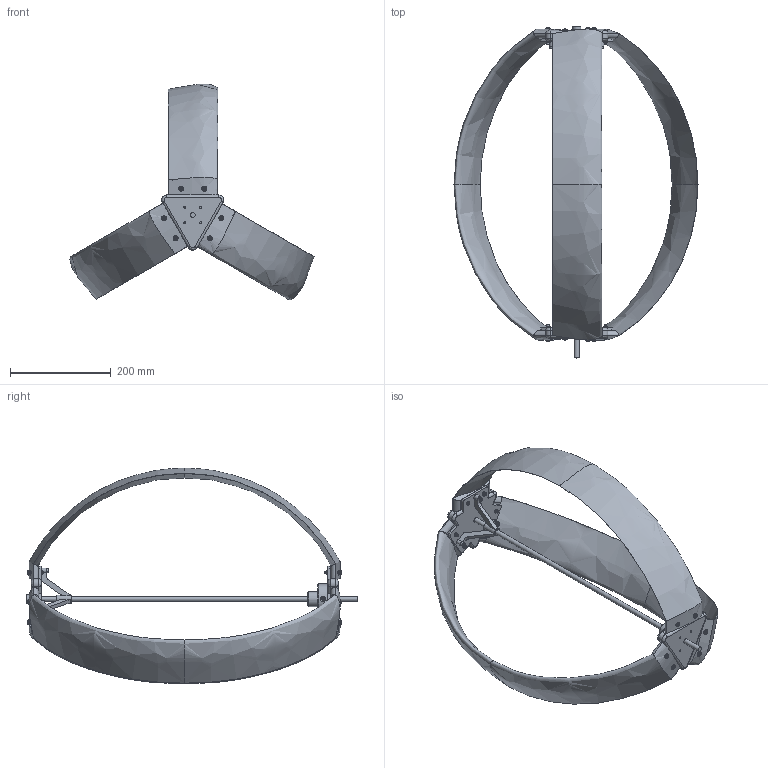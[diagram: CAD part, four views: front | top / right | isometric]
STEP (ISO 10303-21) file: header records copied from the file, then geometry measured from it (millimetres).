
FILE_DESCRIPTION(/* description */ (''),/* implementation_level */ '2;1');
FILE_NAME(/* name */ 'Assieme_darrius_curve2.stp',/* time_stamp */ '2025-01-12T18:12:03+01:00',/* author */ ('R5800u'),/* organization */ (''),/* preprocessor_version */ 'ST-DEVELOPER v20',/* originating_system */ 'Autodesk Inventor 2025',/* authorisation */ '');
FILE_SCHEMA (('AUTOMOTIVE_DESIGN { 1 0 10303 214 3 1 1 }'));
Length unit declared in the file: millimetre
Products named in the file (14): Assieme_darrius_curve; darrius_profilo_pala_curva; blocco_curvo1; blocco_curvo1_MIR; AS 1112 - M5; AS 1427 - M5 x 25; AS 1112 - M4; blocco_albero; AS 1285 - M10; blocco_superiore_curvo; albero; AS 1427 - M5 x 30; AS 1420 - 1973 - M5 x 25; AS 1420 - 1973 - M5 x 16
Assembly tree (42 placements, depth 2):
  Assieme_darrius_curve
    darrius_profilo_pala_curva  x3
    blocco_curvo1
    blocco_curvo1_MIR
    AS 1427 - M5 x 30  x6
    AS 1427 - M5 x 25  x6
    AS 1112 - M5
    AS 1112 - M4  x13
    blocco_albero
    AS 1285 - M10
    blocco_superiore_curvo
    albero
    AS 1420 - 1973 - M5 x 25  x4
    AS 1420 - 1973 - M5 x 16  x3
Bounding box: 485.09 x 660 x 428.95 mm (x, y, z)
Volume: 3508246.8 mm3; surface area: 645751.6 mm2
Topology: 42 solids, 42 shells, 1058 faces, 2590 edges, 1643 vertices
Faces by surface type: plane 386, cone 373, cylinder 168, torus 80, bspline 39, sphere 12
Full cylindrical faces by diameter (mm): 3.242 x13, 4.134 x14, 4.51 x12, 5 x31, 5.134 x2, 5.3 x16, 8.376 x1, 8.5 x7, 10 x9, 11 x2, 16 x1, 17 x1, 30 x1, 60 x1
Entity records: 16409 total; most frequent: CARTESIAN_POINT 7147, DIRECTION 1873, ORIENTED_EDGE 1760, EDGE_CURVE 880, AXIS2_PLACEMENT_3D 770, VERTEX_POINT 562, EDGE_LOOP 460, CIRCLE 361
